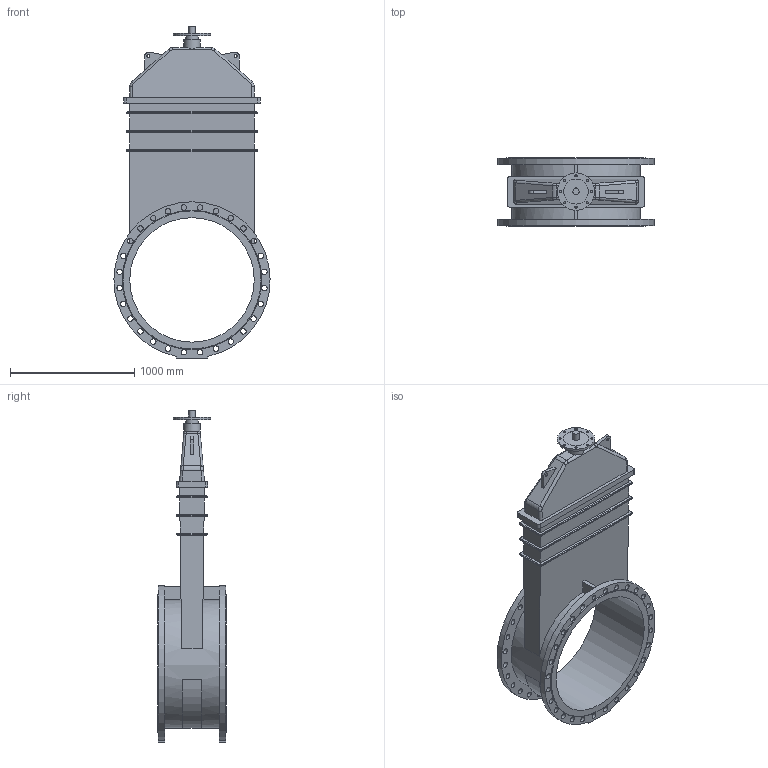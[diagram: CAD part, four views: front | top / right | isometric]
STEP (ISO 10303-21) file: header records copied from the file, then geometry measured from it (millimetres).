
FILE_DESCRIPTION(('STEP AP203'), '1');
FILE_NAME('Çàäâèæêà 47GVA DN1000 PN16_F25 áåç èñïîëíèò. ìåõ.', '', ('UNSPECIFIED'), ('UNSPECIFIED'), 'ASCON STEP Converter 1.6', 'ASCON Math Kernel', '');
FILE_SCHEMA(('CONFIG_CONTROL_DESIGN'));
Length unit declared in the file: millimetre
Bounding box: 1254.88 x 550 x 2667.5 mm (x, y, z)
Volume: 326913845.1 mm3; surface area: 9497885 mm2
Topology: 1 solids, 1 shells, 273 faces, 678 edges, 430 vertices
Faces by surface type: cylinder 142, plane 97, bspline 32, cone 2
Full cylindrical faces by diameter (mm): 18 x8, 25 x2, 44 x56, 50 x1, 100 x1, 130 x1, 200 x1, 300 x1, 1000 x1
Entity records: 12799 total; most frequent: CARTESIAN_POINT 4237, DIRECTION 1252, ORIENTED_EDGE 1208, EDGE_CURVE 604, EDGE_LOOP 504, AXIS2_PLACEMENT_3D 490, VERTEX_POINT 430, FACE_BOUND 357
